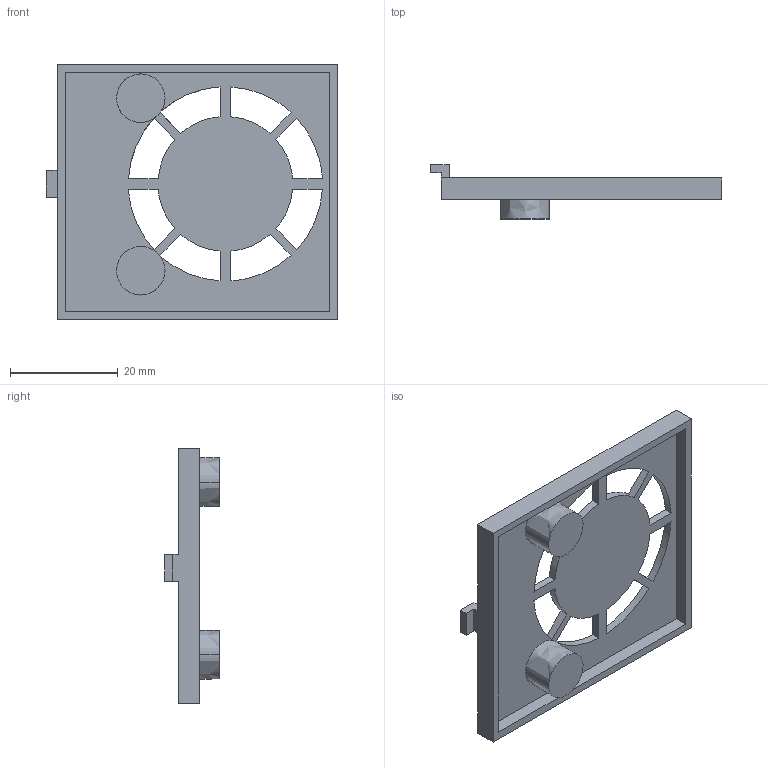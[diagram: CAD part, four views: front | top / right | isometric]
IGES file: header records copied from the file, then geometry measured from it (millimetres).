
Start section:  PTC IGES file: j4-70-100-fancover.igs
Global section: file name: j4-70-100-fancover.igs; native system: Pro/ENGINEER by Parametric Technology Corporation; preprocessor: 2010160; author: CV86875; organization: Unknown; date: 20121031.194149; units: millimetre
Bounding box: 54 x 10.1 x 47.4 mm (x, y, z)
Volume: 4162.6 mm3; surface area: 6318.7 mm2
Topology: 1 solids, 1 shells, 63 faces, 174 edges, 116 vertices
Faces by surface type: bspline 63
